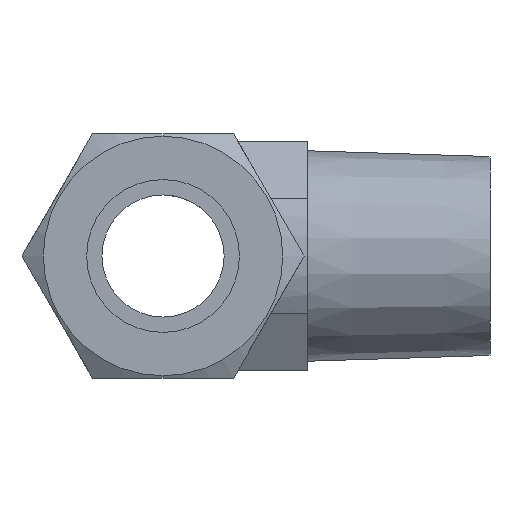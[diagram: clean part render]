
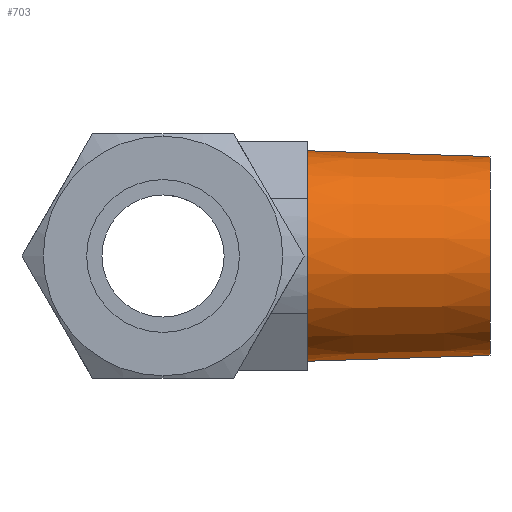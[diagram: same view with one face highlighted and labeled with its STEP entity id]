
A CAD part, left-side view. The second image highlights one B-rep face of the part: STEP entity #703.
In plain terms, the highlighted conical face has half-angle 1.8 degrees and reference radius 10.6 mm.
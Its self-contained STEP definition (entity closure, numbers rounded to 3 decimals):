
#691 = EDGE_CURVE ( 'NONE', #708, #702, #2096, .T. ) ;
#692 = ORIENTED_EDGE ( 'NONE', *, *, #691, .F. ) ;
#698 = ORIENTED_EDGE ( 'NONE', *, *, #699, .T. ) ;
#699 = EDGE_CURVE ( 'NONE', #707, #709, #2082, .T. ) ;
#700 = ORIENTED_EDGE ( 'NONE', *, *, #701, .T. ) ;
#701 = EDGE_CURVE ( 'NONE', #709, #702, #2078, .T. ) ;
#702 = VERTEX_POINT ( 'NONE', #2073 ) ;
#703 = ADVANCED_FACE ( 'NONE', ( #2072 ), #2070, .T. ) ;
#704 = ORIENTED_EDGE ( 'NONE', *, *, #705, .F. ) ;
#705 = EDGE_CURVE ( 'NONE', #707, #708, #2123, .T. ) ;
#706 = EDGE_LOOP ( 'NONE', ( #704, #698, #700, #692 ) ) ;
#707 = VERTEX_POINT ( 'NONE', #2118 ) ;
#708 = VERTEX_POINT ( 'NONE', #2117 ) ;
#709 = VERTEX_POINT ( 'NONE', #2116 ) ;
#2069 = AXIS2_PLACEMENT_3D ( 'NONE', #2071, #2125, #2124 ) ;
#2070 = CONICAL_SURFACE ( 'NONE', #2069, 10.6, 0.031 ) ;
#2071 = CARTESIAN_POINT ( 'NONE',  ( 0., -25.87, 0. ) ) ;
#2072 = FACE_OUTER_BOUND ( 'NONE', #706, .T. ) ;
#2073 = CARTESIAN_POINT ( 'NONE',  ( 0., -15., -10.942 ) ) ;
#2074 = DIRECTION ( 'NONE',  ( 0., 0., 1. ) ) ;
#2075 = DIRECTION ( 'NONE',  ( 0., -1., 0. ) ) ;
#2076 = CARTESIAN_POINT ( 'NONE',  ( 0., -15., 0. ) ) ;
#2077 = AXIS2_PLACEMENT_3D ( 'NONE', #2076, #2075, #2074 ) ;
#2078 = CIRCLE ( 'NONE', #2077, 10.942 ) ;
#2079 = DIRECTION ( 'NONE',  ( 0., 1., 0.031 ) ) ;
#2080 = VECTOR ( 'NONE', #2079, 1000. ) ;
#2081 = CARTESIAN_POINT ( 'NONE',  ( 0., -25.87, 10.6 ) ) ;
#2082 = LINE ( 'NONE', #2081, #2080 ) ;
#2093 = DIRECTION ( 'NONE',  ( 0., 1., -0.031 ) ) ;
#2094 = VECTOR ( 'NONE', #2093, 1000. ) ;
#2095 = CARTESIAN_POINT ( 'NONE',  ( 0., -25.87, -10.6 ) ) ;
#2096 = LINE ( 'NONE', #2095, #2094 ) ;
#2116 = CARTESIAN_POINT ( 'NONE',  ( 0., -15., 10.942 ) ) ;
#2117 = CARTESIAN_POINT ( 'NONE',  ( 0., -34., -10.345 ) ) ;
#2118 = CARTESIAN_POINT ( 'NONE',  ( 0., -34., 10.345 ) ) ;
#2119 = DIRECTION ( 'NONE',  ( 0., 0., -1. ) ) ;
#2120 = DIRECTION ( 'NONE',  ( 0., -1., 0. ) ) ;
#2121 = CARTESIAN_POINT ( 'NONE',  ( 0., -34., 0. ) ) ;
#2122 = AXIS2_PLACEMENT_3D ( 'NONE', #2121, #2120, #2119 ) ;
#2123 = CIRCLE ( 'NONE', #2122, 10.345 ) ;
#2124 = DIRECTION ( 'NONE',  ( 0., 0., -1. ) ) ;
#2125 = DIRECTION ( 'NONE',  ( 0., 1., 0. ) ) ;
